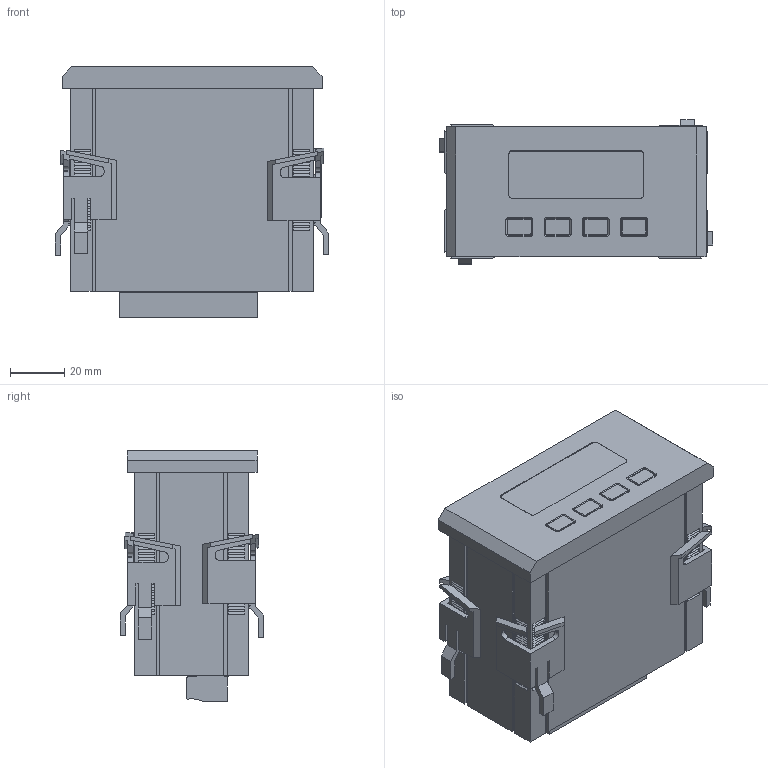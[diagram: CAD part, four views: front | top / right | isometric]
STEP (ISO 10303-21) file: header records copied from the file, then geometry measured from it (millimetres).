
FILE_DESCRIPTION(/* description */ (''),/* implementation_level */ '2;1');
FILE_NAME(/* name */ 'T:\EngMecanica\DESENHOS INVENTOR\Catalogo 2019\Arquivos STEP\KDG 96x48.stp',/* time_stamp */ '2024-11-21T11:01:47-03:00',/* author */ ('jose.luis'),/* organization */ (''),/* preprocessor_version */ 'ST-DEVELOPER v18.1',/* originating_system */ 'Autodesk Inventor 2021',/* authorisation */ '');
FILE_SCHEMA (('AUTOMOTIVE_DESIGN { 1 0 10303 214 3 1 1 }'));
Products named in the file (9): IKRON 96x48-voltímetro; Visor; 1768260; 1912045; Botão verde menu; Botão verde; Botão verde seta para cima; Trava para painel; Corpo ikron Voltímetro - 96x48
Assembly tree (12 placements, depth 2):
  IKRON 96x48-voltímetro
    Visor
    1768260
    1912045
    Botão verde menu
    Botão verde
    Botão verde seta para cima  x2
    Trava para painel  x4
    Corpo ikron Voltímetro - 96x48
Bounding box: 101.06 x 53.2 x 92.57 mm (x, y, z)
Volume: 327104.1 mm3; surface area: 57979.2 mm2
Topology: 12 solids, 12 shells, 2882 faces, 6577 edges, 3872 vertices
Faces by surface type: plane 2515, cylinder 307, cone 36, torus 16, bspline 8
Entity records: 75572 total; most frequent: CARTESIAN_POINT 13136, DIRECTION 12428, ORIENTED_EDGE 12242, EDGE_CURVE 6121, LINE 5222, VECTOR 5222, AXIS2_PLACEMENT_3D 3603, VERTEX_POINT 3571
